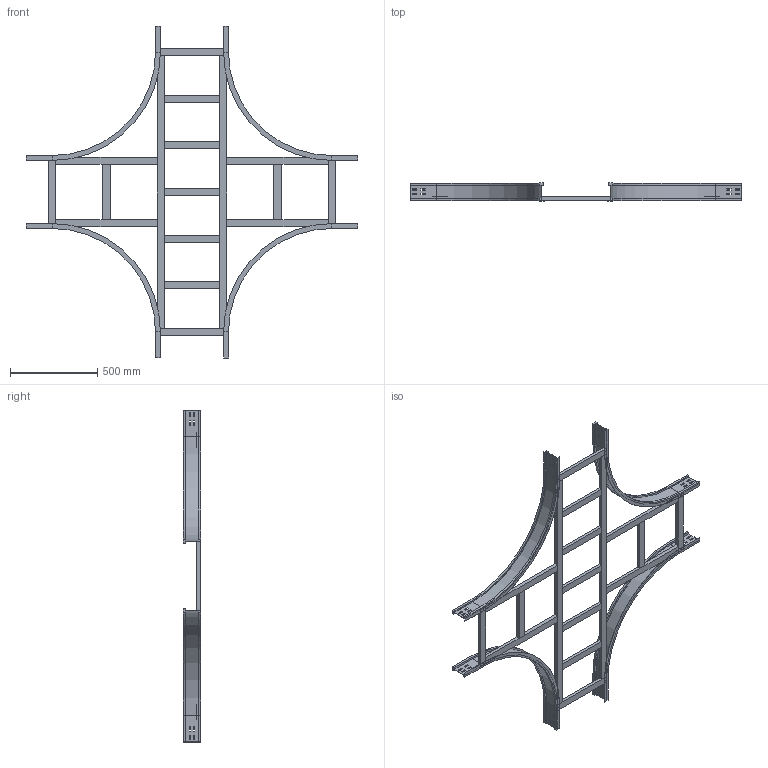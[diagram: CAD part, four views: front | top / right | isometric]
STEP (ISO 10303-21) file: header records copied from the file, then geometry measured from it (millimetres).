
FILE_DESCRIPTION (( 'STEP AP214' ), '1' );
FILE_NAME ('17S6D400.step', '2025-02-21T16:16:32', ( '' ), ( '' ), 'SwSTEP 2.0', 'SolidWorks 2023', '' );
FILE_SCHEMA (( 'AUTOMOTIVE_DESIGN' ));
Length unit declared in the file: millimetre
Products named in the file (7): LONGH.INTERNO 90°_H100_R600; TRAVERSINO_LONG._R600+400; TRAVERSINO_COPPIA_400; 17S6D400; TRAVERSINO_400; TRAVERSINO_INTERMEDIO_X_R600+400; TRAVERSINO_VERT_R600
Assembly tree (21 placements, depth 2):
  17S6D400
    LONGH.INTERNO 90°_H100_R600  x4
    TRAVERSINO_400  x4
    TRAVERSINO_LONG._R600+400  x2
    TRAVERSINO_INTERMEDIO_X_R600+400  x5
    TRAVERSINO_VERT_R600  x4
    TRAVERSINO_COPPIA_400  x2
Bounding box: 1900 x 100 x 1900 mm (x, y, z)
Volume: 10114711.9 mm3; surface area: 2618149 mm2
Topology: 21 solids, 21 shells, 382 faces, 924 edges, 584 vertices
Faces by surface type: plane 358, cylinder 24
Entity records: 3196 total; most frequent: CARTESIAN_POINT 516, DIRECTION 500, ORIENTED_EDGE 480, EDGE_CURVE 240, VECTOR 228, LINE 228, VERTEX_POINT 152, AXIS2_PLACEMENT_3D 136
